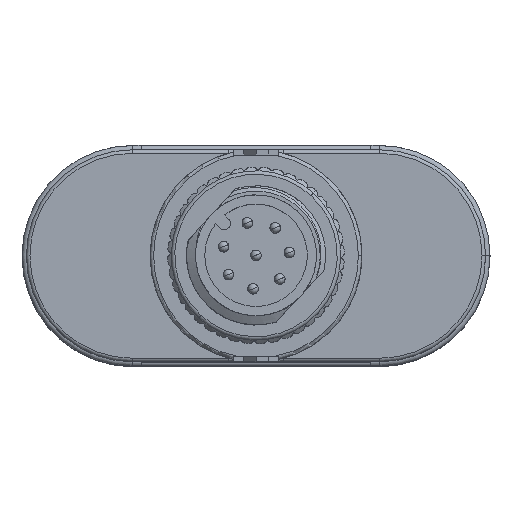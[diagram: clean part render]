
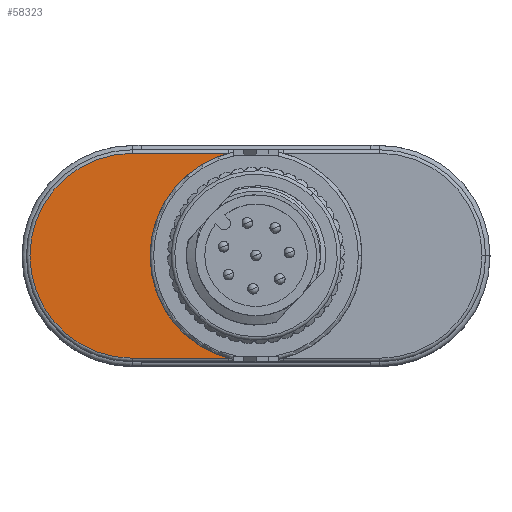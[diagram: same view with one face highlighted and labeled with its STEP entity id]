
A CAD part, top view. The second image highlights one B-rep face of the part: STEP entity #58323.
In plain terms, the highlighted planar face has unit normal (0, 0, 1).
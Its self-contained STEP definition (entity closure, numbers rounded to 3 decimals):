
#34980=CARTESIAN_POINT('',(-8.014,2.121,6.));
#34981=DIRECTION('',(0.,0.,1.));
#34982=DIRECTION('',(0.,1.,0.));
#34983=AXIS2_PLACEMENT_3D('',#34980,#34981,#34982);
#34988=CARTESIAN_POINT('',(-1.014,2.121,6.));
#34989=DIRECTION('',(0.,0.,-1.));
#34990=DIRECTION('',(-1.,0.,0.));
#34991=AXIS2_PLACEMENT_3D('',#34988,#34989,#34990);
#34996=CARTESIAN_POINT('',(-1.014,2.121,6.));
#34997=DIRECTION('',(0.,0.,-1.));
#34998=DIRECTION('',(-0.256,-0.967,0.));
#34999=AXIS2_PLACEMENT_3D('',#34996,#34997,#34998);
#35004=CARTESIAN_POINT('',(-8.014,2.121,6.));
#35005=DIRECTION('',(0.,0.,1.));
#35006=DIRECTION('',(-1.,0.,0.));
#35007=AXIS2_PLACEMENT_3D('',#35004,#35005,#35006);
#35044=DIRECTION('',(1.,0.,0.));
#35045=VECTOR('',#35044,5.464);
#35046=CARTESIAN_POINT('',(-8.014,7.921,6.));
#35047=LINE('',#35046,#35045);
#47361=DIRECTION('',(-1.,0.,0.));
#47362=VECTOR('',#47361,5.464);
#47363=CARTESIAN_POINT('',(-2.55,-3.679,6.));
#47364=LINE('',#47363,#47362);
#55237=CARTESIAN_POINT('',(-2.55,-3.679,6.));
#55238=CARTESIAN_POINT('',(-8.014,-3.679,6.));
#55239=VERTEX_POINT('',#55237);
#55240=VERTEX_POINT('',#55238);
#55241=CARTESIAN_POINT('',(-8.014,7.921,6.));
#55242=CARTESIAN_POINT('',(-13.814,2.121,6.));
#55243=VERTEX_POINT('',#55241);
#55244=VERTEX_POINT('',#55242);
#55245=CARTESIAN_POINT('',(-2.55,7.921,6.));
#55246=VERTEX_POINT('',#55245);
#55924=CARTESIAN_POINT('',(-7.014,2.121,6.));
#55926=VERTEX_POINT('',#55924);
#58306=CARTESIAN_POINT('',(-8.014,2.121,6.));
#58307=DIRECTION('',(0.,0.,1.));
#58308=DIRECTION('',(1.,0.,0.));
#58309=AXIS2_PLACEMENT_3D('',#58306,#58307,#58308);
#58310=PLANE('',#58309);
#58312=ORIENTED_EDGE('',*,*,#58311,.F.);
#58314=ORIENTED_EDGE('',*,*,#58313,.T.);
#58315=ORIENTED_EDGE('',*,*,#58289,.F.);
#58316=ORIENTED_EDGE('',*,*,#58240,.F.);
#58318=ORIENTED_EDGE('',*,*,#58317,.T.);
#58320=ORIENTED_EDGE('',*,*,#58319,.F.);
#58321=EDGE_LOOP('',(#58312,#58314,#58315,#58316,#58318,#58320));
#58322=FACE_OUTER_BOUND('',#58321,.F.);
#34984=CIRCLE('',#34983,5.8);
#34992=CIRCLE('',#34991,6.);
#35000=CIRCLE('',#34999,6.);
#35008=CIRCLE('',#35007,5.8);
#58240=EDGE_CURVE('',#55239,#55926,#35000,.T.);
#58289=EDGE_CURVE('',#55926,#55246,#34992,.T.);
#58311=EDGE_CURVE('',#55243,#55244,#34984,.T.);
#58313=EDGE_CURVE('',#55243,#55246,#35047,.T.);
#58317=EDGE_CURVE('',#55239,#55240,#47364,.T.);
#58319=EDGE_CURVE('',#55244,#55240,#35008,.T.);
#58323=ADVANCED_FACE('',(#58322),#58310,.T.);
